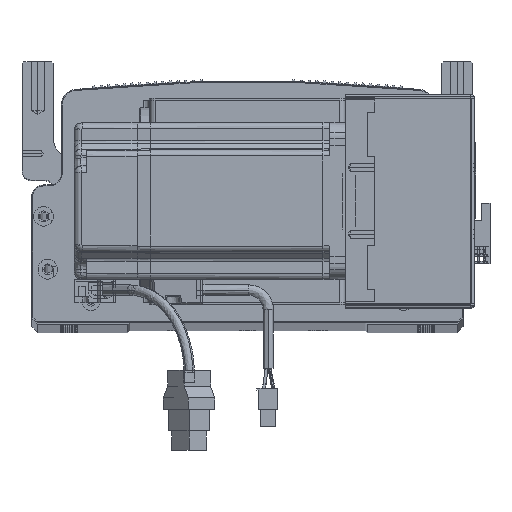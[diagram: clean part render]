
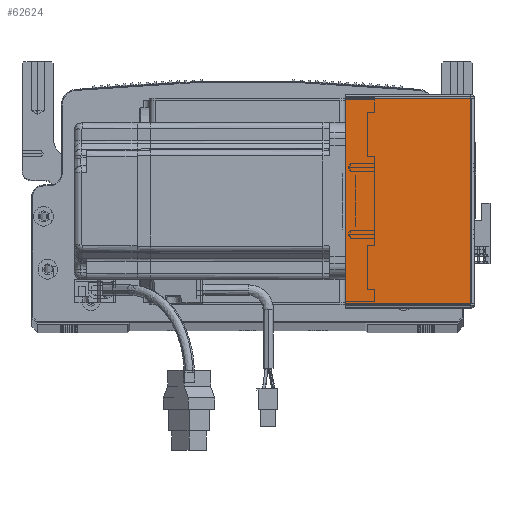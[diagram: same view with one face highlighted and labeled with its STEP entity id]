
A CAD part, top view. The second image highlights one B-rep face of the part: STEP entity #62624.
In plain terms, the highlighted planar face has unit normal (0, 0, 1) as drawn and (0, 0, -1) by its records, which use the part's own axes.
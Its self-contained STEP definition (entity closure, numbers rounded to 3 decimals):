
#2513 = CARTESIAN_POINT ( 'NONE',  ( 0.737, 0.707, -205.5 ) ) ;
#5572 = AXIS2_PLACEMENT_3D ( 'NONE', #58550, #66232, #44443 ) ;
#10163 = VECTOR ( 'NONE', #83971, 1000. ) ;
#11055 = CARTESIAN_POINT ( 'NONE',  ( 64.5, 0., -205.5 ) ) ;
#16339 = ORIENTED_EDGE ( 'NONE', *, *, #70600, .F. ) ;
#22614 = LINE ( 'NONE', #42262, #23838 ) ;
#23838 = VECTOR ( 'NONE', #79471, 1000. ) ;
#26305 = LINE ( 'NONE', #11055, #10163 ) ;
#26976 = VERTEX_POINT ( 'NONE', #2513 ) ;
#30587 = VERTEX_POINT ( 'NONE', #53956 ) ;
#37436 = CARTESIAN_POINT ( 'NONE',  ( 64.5, 105.293, -205.5 ) ) ;
#42262 = CARTESIAN_POINT ( 'NONE',  ( 0.737, 0., -205.5 ) ) ;
#44443 = DIRECTION ( 'NONE',  ( 1., 0., 0. ) ) ;
#51181 = PLANE ( 'NONE',  #5572 ) ;
#53956 = CARTESIAN_POINT ( 'NONE',  ( 0.737, 105.293, -205.5 ) ) ;
#54593 = VECTOR ( 'NONE', #64585, 1000. ) ;
#55702 = LINE ( 'NONE', #92569, #54593 ) ;
#56768 = FACE_OUTER_BOUND ( 'NONE', #91633, .T. ) ;
#58550 = CARTESIAN_POINT ( 'NONE',  ( 0., 0., -205.5 ) ) ;
#62624 = ADVANCED_FACE ( 'NONE', ( #56768 ), #51181, .F. ) ;
#64585 = DIRECTION ( 'NONE',  ( 1., 0., 0. ) ) ;
#66232 = DIRECTION ( 'NONE',  ( 0., 0., 1. ) ) ;
#70600 = EDGE_CURVE ( 'NONE', #26976, #81801, #78040, .T. ) ;
#71188 = DIRECTION ( 'NONE',  ( 1., 0., 0. ) ) ;
#73434 = VECTOR ( 'NONE', #71188, 1000. ) ;
#74025 = ORIENTED_EDGE ( 'NONE', *, *, #91529, .F. ) ;
#75266 = ORIENTED_EDGE ( 'NONE', *, *, #90334, .T. ) ;
#76112 = VERTEX_POINT ( 'NONE', #37436 ) ;
#78040 = LINE ( 'NONE', #93319, #73434 ) ;
#79471 = DIRECTION ( 'NONE',  ( 0., -1., 0. ) ) ;
#80495 = EDGE_CURVE ( 'NONE', #30587, #76112, #55702, .T. ) ;
#81801 = VERTEX_POINT ( 'NONE', #87098 ) ;
#83971 = DIRECTION ( 'NONE',  ( 0., -1., 0. ) ) ;
#86700 = ORIENTED_EDGE ( 'NONE', *, *, #80495, .T. ) ;
#87098 = CARTESIAN_POINT ( 'NONE',  ( 64.5, 0.707, -205.5 ) ) ;
#90334 = EDGE_CURVE ( 'NONE', #76112, #81801, #26305, .T. ) ;
#91529 = EDGE_CURVE ( 'NONE', #30587, #26976, #22614, .T. ) ;
#91633 = EDGE_LOOP ( 'NONE', ( #74025, #86700, #75266, #16339 ) ) ;
#92569 = CARTESIAN_POINT ( 'NONE',  ( 0., 105.293, -205.5 ) ) ;
#93319 = CARTESIAN_POINT ( 'NONE',  ( 0., 0.707, -205.5 ) ) ;
